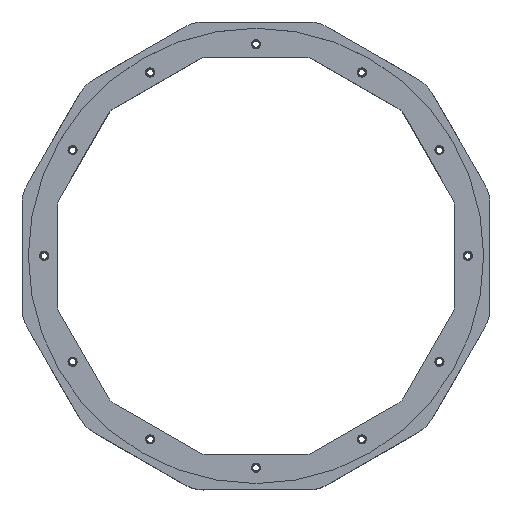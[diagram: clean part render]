
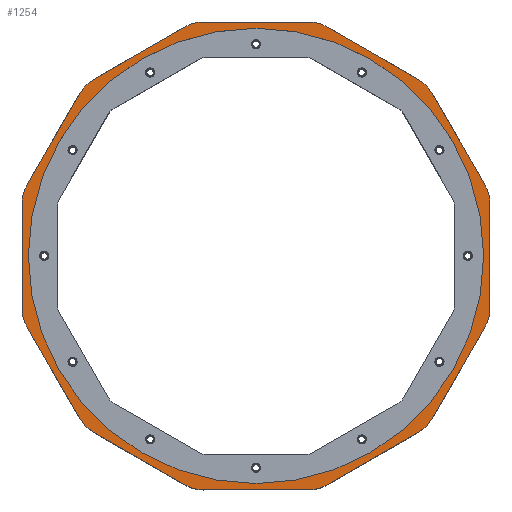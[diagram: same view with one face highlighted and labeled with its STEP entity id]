
A CAD part, top view. The second image highlights one B-rep face of the part: STEP entity #1254.
In plain terms, the highlighted planar face has unit normal (0, 0, 1).
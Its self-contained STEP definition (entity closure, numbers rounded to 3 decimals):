
#1254=ADVANCED_FACE('',(#3554,#2390),#10066,.T.);
#2390=FACE_OUTER_BOUND('',#3819,.F.);
#3554=FACE_BOUND('',#3818,.F.);
#3818=EDGE_LOOP('',(#5402,#5403));
#3819=EDGE_LOOP('',(#5404,#5405,#5406,#5407,#5408,#5409,#5410,#5411,#5412,
#5413,#5414,#5415,#5416,#5417,#5418,#5419,#5420,#5421,#5422,#5423,#5424,
#5425,#5426,#5427));
#5402=ORIENTED_EDGE('',*,*,#12957,.T.);
#5403=ORIENTED_EDGE('',*,*,#12956,.T.);
#5404=ORIENTED_EDGE('',*,*,#12672,.T.);
#5405=ORIENTED_EDGE('',*,*,#12969,.F.);
#5406=ORIENTED_EDGE('',*,*,#12706,.T.);
#5407=ORIENTED_EDGE('',*,*,#12968,.F.);
#5408=ORIENTED_EDGE('',*,*,#12967,.T.);
#5409=ORIENTED_EDGE('',*,*,#12871,.F.);
#5410=ORIENTED_EDGE('',*,*,#12744,.T.);
#5411=ORIENTED_EDGE('',*,*,#12966,.F.);
#5412=ORIENTED_EDGE('',*,*,#12778,.T.);
#5413=ORIENTED_EDGE('',*,*,#12965,.F.);
#5414=ORIENTED_EDGE('',*,*,#12964,.T.);
#5415=ORIENTED_EDGE('',*,*,#12838,.F.);
#5416=ORIENTED_EDGE('',*,*,#12528,.T.);
#5417=ORIENTED_EDGE('',*,*,#12963,.F.);
#5418=ORIENTED_EDGE('',*,*,#12562,.T.);
#5419=ORIENTED_EDGE('',*,*,#12962,.F.);
#5420=ORIENTED_EDGE('',*,*,#12961,.T.);
#5421=ORIENTED_EDGE('',*,*,#12849,.F.);
#5422=ORIENTED_EDGE('',*,*,#12600,.T.);
#5423=ORIENTED_EDGE('',*,*,#12960,.F.);
#5424=ORIENTED_EDGE('',*,*,#12634,.T.);
#5425=ORIENTED_EDGE('',*,*,#12959,.F.);
#5426=ORIENTED_EDGE('',*,*,#12958,.T.);
#5427=ORIENTED_EDGE('',*,*,#12860,.F.);
#10066=PLANE('',#18616);
#10300=LINE('',#27552,#11408);
#10316=LINE('',#27586,#11424);
#10334=LINE('',#27624,#11442);
#10350=LINE('',#27658,#11458);
#10368=LINE('',#27696,#11476);
#10384=LINE('',#27730,#11492);
#10402=LINE('',#27768,#11510);
#10418=LINE('',#27802,#11526);
#10466=LINE('',#27982,#11574);
#10467=LINE('',#27985,#11575);
#10468=LINE('',#27988,#11576);
#10469=LINE('',#27991,#11577);
#11408=VECTOR('',#20413,40.5);
#11424=VECTOR('',#20465,40.5);
#11442=VECTOR('',#20523,40.5);
#11458=VECTOR('',#20575,40.5);
#11476=VECTOR('',#20633,40.5);
#11492=VECTOR('',#20685,40.5);
#11510=VECTOR('',#20743,40.5);
#11526=VECTOR('',#20795,40.5);
#11574=VECTOR('',#21107,40.5);
#11575=VECTOR('',#21112,40.5);
#11576=VECTOR('',#21117,40.5);
#11577=VECTOR('',#21122,40.5);
#12528=EDGE_CURVE('',#17221,#17220,#10300,.T.);
#12562=EDGE_CURVE('',#17187,#17186,#10316,.T.);
#12600=EDGE_CURVE('',#17147,#17146,#10334,.T.);
#12634=EDGE_CURVE('',#17113,#17112,#10350,.T.);
#12672=EDGE_CURVE('',#17073,#17072,#10368,.T.);
#12706=EDGE_CURVE('',#17039,#17038,#10384,.T.);
#12744=EDGE_CURVE('',#16999,#16998,#10402,.T.);
#12778=EDGE_CURVE('',#16965,#16964,#10418,.T.);
#12838=EDGE_CURVE('',#17221,#16897,#15154,.T.);
#12849=EDGE_CURVE('',#17147,#16887,#15164,.T.);
#12860=EDGE_CURVE('',#17073,#16877,#15174,.T.);
#12871=EDGE_CURVE('',#16999,#16867,#15184,.T.);
#12956=EDGE_CURVE('',#16815,#16814,#15244,.T.);
#12957=EDGE_CURVE('',#16814,#16815,#15245,.T.);
#12958=EDGE_CURVE('',#16813,#16877,#10466,.T.);
#12959=EDGE_CURVE('',#16813,#17112,#15246,.T.);
#12960=EDGE_CURVE('',#17113,#17146,#15247,.T.);
#12961=EDGE_CURVE('',#16812,#16887,#10467,.T.);
#12962=EDGE_CURVE('',#16812,#17186,#15248,.T.);
#12963=EDGE_CURVE('',#17187,#17220,#15249,.T.);
#12964=EDGE_CURVE('',#16811,#16897,#10468,.T.);
#12965=EDGE_CURVE('',#16811,#16964,#15250,.T.);
#12966=EDGE_CURVE('',#16965,#16998,#15251,.T.);
#12967=EDGE_CURVE('',#16810,#16867,#10469,.T.);
#12968=EDGE_CURVE('',#16810,#17038,#15252,.T.);
#12969=EDGE_CURVE('',#17039,#17072,#15253,.T.);
#15154=CIRCLE('',#18004,14.426);
#15164=CIRCLE('',#18014,14.426);
#15174=CIRCLE('',#18024,14.426);
#15184=CIRCLE('',#18034,14.426);
#15244=CIRCLE('',#18094,87.6);
#15245=CIRCLE('',#18095,87.6);
#15246=CIRCLE('',#18096,14.426);
#15247=CIRCLE('',#18097,14.426);
#15248=CIRCLE('',#18098,14.426);
#15249=CIRCLE('',#18099,14.426);
#15250=CIRCLE('',#18100,14.426);
#15251=CIRCLE('',#18101,14.426);
#15252=CIRCLE('',#18102,14.426);
#15253=CIRCLE('',#18103,14.426);
#16810=VERTEX_POINT('',#27102);
#16811=VERTEX_POINT('',#27103);
#16812=VERTEX_POINT('',#27104);
#16813=VERTEX_POINT('',#27105);
#16814=VERTEX_POINT('',#27106);
#16815=VERTEX_POINT('',#27107);
#16867=VERTEX_POINT('',#27159);
#16877=VERTEX_POINT('',#27169);
#16887=VERTEX_POINT('',#27179);
#16897=VERTEX_POINT('',#27189);
#16964=VERTEX_POINT('',#27256);
#16965=VERTEX_POINT('',#27257);
#16998=VERTEX_POINT('',#27290);
#16999=VERTEX_POINT('',#27291);
#17038=VERTEX_POINT('',#27330);
#17039=VERTEX_POINT('',#27331);
#17072=VERTEX_POINT('',#27364);
#17073=VERTEX_POINT('',#27365);
#17112=VERTEX_POINT('',#27404);
#17113=VERTEX_POINT('',#27405);
#17146=VERTEX_POINT('',#27438);
#17147=VERTEX_POINT('',#27439);
#17186=VERTEX_POINT('',#27478);
#17187=VERTEX_POINT('',#27479);
#17220=VERTEX_POINT('',#27512);
#17221=VERTEX_POINT('',#27513);
#18004=AXIS2_PLACEMENT_3D('',#27862,#20895,#20896);
#18014=AXIS2_PLACEMENT_3D('',#27873,#20916,#20917);
#18024=AXIS2_PLACEMENT_3D('',#27884,#20937,#20938);
#18034=AXIS2_PLACEMENT_3D('',#27895,#20958,#20959);
#18094=AXIS2_PLACEMENT_3D('',#27980,#21103,#21104);
#18095=AXIS2_PLACEMENT_3D('',#27981,#21105,#21106);
#18096=AXIS2_PLACEMENT_3D('',#27983,#21108,#21109);
#18097=AXIS2_PLACEMENT_3D('',#27984,#21110,#21111);
#18098=AXIS2_PLACEMENT_3D('',#27986,#21113,#21114);
#18099=AXIS2_PLACEMENT_3D('',#27987,#21115,#21116);
#18100=AXIS2_PLACEMENT_3D('',#27989,#21118,#21119);
#18101=AXIS2_PLACEMENT_3D('',#27990,#21120,#21121);
#18102=AXIS2_PLACEMENT_3D('',#27992,#21123,#21124);
#18103=AXIS2_PLACEMENT_3D('',#27993,#21125,#21126);
#18616=AXIS2_PLACEMENT_3D('',#29006,#22651,#22652);
#20413=DIRECTION('',(0.5,0.866,0.));
#20465=DIRECTION('',(0.866,0.5,0.));
#20523=DIRECTION('',(0.866,-0.5,0.));
#20575=DIRECTION('',(0.5,-0.866,0.));
#20633=DIRECTION('',(-0.5,-0.866,0.));
#20685=DIRECTION('',(-0.866,-0.5,0.));
#20743=DIRECTION('',(-0.866,0.5,0.));
#20795=DIRECTION('',(-0.5,0.866,0.));
#20895=DIRECTION('',(0.,0.,1.));
#20896=DIRECTION('',(-0.866,0.5,0.));
#20916=DIRECTION('',(0.,0.,1.));
#20917=DIRECTION('',(0.5,0.866,0.));
#20937=DIRECTION('',(0.,0.,1.));
#20938=DIRECTION('',(0.866,-0.5,0.));
#20958=DIRECTION('',(0.,0.,1.));
#20959=DIRECTION('',(-0.5,-0.866,0.));
#21103=DIRECTION('',(0.,0.,1.));
#21104=DIRECTION('',(0.,-1.,0.));
#21105=DIRECTION('',(0.,0.,1.));
#21106=DIRECTION('',(0.,1.,0.));
#21107=DIRECTION('',(0.,-1.,0.));
#21108=DIRECTION('',(0.,0.,1.));
#21109=DIRECTION('',(1.,0.,0.));
#21110=DIRECTION('',(0.,0.,1.));
#21111=DIRECTION('',(0.866,0.5,0.));
#21112=DIRECTION('',(1.,0.,0.));
#21113=DIRECTION('',(0.,0.,1.));
#21114=DIRECTION('',(0.,1.,0.));
#21115=DIRECTION('',(0.,0.,1.));
#21116=DIRECTION('',(-0.5,0.866,0.));
#21117=DIRECTION('',(0.,1.,0.));
#21118=DIRECTION('',(0.,0.,1.));
#21119=DIRECTION('',(-1.,0.,0.));
#21120=DIRECTION('',(0.,0.,1.));
#21121=DIRECTION('',(-0.866,-0.5,0.));
#21122=DIRECTION('',(-1.,0.,0.));
#21123=DIRECTION('',(0.,0.,1.));
#21124=DIRECTION('',(0.,-1.,0.));
#21125=DIRECTION('',(0.,0.,1.));
#21126=DIRECTION('',(0.5,-0.866,0.));
#22651=DIRECTION('',(0.,0.,1.));
#22652=DIRECTION('',(1.,0.,0.));
#27102=CARTESIAN_POINT('',(-183.008,-103.33,-716.935));
#27103=CARTESIAN_POINT('',(-293.258,-33.58,-716.935));
#27104=CARTESIAN_POINT('',(-223.508,76.67,-716.935));
#27105=CARTESIAN_POINT('',(-113.258,6.92,-716.935));
#27106=CARTESIAN_POINT('',(-203.258,74.27,-716.935));
#27107=CARTESIAN_POINT('',(-203.258,-100.93,-716.935));
#27159=CARTESIAN_POINT('',(-223.508,-103.33,-716.935));
#27169=CARTESIAN_POINT('',(-113.258,-33.58,-716.935));
#27179=CARTESIAN_POINT('',(-183.008,76.67,-716.935));
#27189=CARTESIAN_POINT('',(-293.258,6.92,-716.935));
#27256=CARTESIAN_POINT('',(-291.325,-40.793,-716.935));
#27257=CARTESIAN_POINT('',(-271.075,-75.867,-716.935));
#27290=CARTESIAN_POINT('',(-265.795,-81.147,-716.935));
#27291=CARTESIAN_POINT('',(-230.721,-101.397,-716.935));
#27330=CARTESIAN_POINT('',(-175.795,-101.397,-716.935));
#27331=CARTESIAN_POINT('',(-140.721,-81.147,-716.935));
#27364=CARTESIAN_POINT('',(-135.441,-75.867,-716.935));
#27365=CARTESIAN_POINT('',(-115.191,-40.793,-716.935));
#27404=CARTESIAN_POINT('',(-115.191,14.133,-716.935));
#27405=CARTESIAN_POINT('',(-135.441,49.207,-716.935));
#27438=CARTESIAN_POINT('',(-140.721,54.487,-716.935));
#27439=CARTESIAN_POINT('',(-175.795,74.737,-716.935));
#27478=CARTESIAN_POINT('',(-230.721,74.737,-716.935));
#27479=CARTESIAN_POINT('',(-265.795,54.487,-716.935));
#27512=CARTESIAN_POINT('',(-271.075,49.207,-716.935));
#27513=CARTESIAN_POINT('',(-291.325,14.133,-716.935));
#27552=CARTESIAN_POINT('',(-291.325,14.133,-716.935));
#27586=CARTESIAN_POINT('',(-265.795,54.487,-716.935));
#27624=CARTESIAN_POINT('',(-175.795,74.737,-716.935));
#27658=CARTESIAN_POINT('',(-135.441,49.207,-716.935));
#27696=CARTESIAN_POINT('',(-115.191,-40.793,-716.935));
#27730=CARTESIAN_POINT('',(-140.721,-81.147,-716.935));
#27768=CARTESIAN_POINT('',(-230.721,-101.397,-716.935));
#27802=CARTESIAN_POINT('',(-271.075,-75.867,-716.935));
#27862=CARTESIAN_POINT('',(-278.832,6.92,-716.935));
#27873=CARTESIAN_POINT('',(-183.008,62.244,-716.935));
#27884=CARTESIAN_POINT('',(-127.684,-33.58,-716.935));
#27895=CARTESIAN_POINT('',(-223.508,-88.904,-716.935));
#27980=CARTESIAN_POINT('',(-203.258,-13.33,-716.935));
#27981=CARTESIAN_POINT('',(-203.258,-13.33,-716.935));
#27982=CARTESIAN_POINT('',(-113.258,6.92,-716.935));
#27983=CARTESIAN_POINT('',(-127.684,6.92,-716.935));
#27984=CARTESIAN_POINT('',(-147.934,41.994,-716.935));
#27985=CARTESIAN_POINT('',(-223.508,76.67,-716.935));
#27986=CARTESIAN_POINT('',(-223.508,62.244,-716.935));
#27987=CARTESIAN_POINT('',(-258.582,41.994,-716.935));
#27988=CARTESIAN_POINT('',(-293.258,-33.58,-716.935));
#27989=CARTESIAN_POINT('',(-278.832,-33.58,-716.935));
#27990=CARTESIAN_POINT('',(-258.582,-68.654,-716.935));
#27991=CARTESIAN_POINT('',(-183.008,-103.33,-716.935));
#27992=CARTESIAN_POINT('',(-183.008,-88.904,-716.935));
#27993=CARTESIAN_POINT('',(-147.934,-68.654,-716.935));
#29006=CARTESIAN_POINT('',(-295.089,-105.161,-716.935));
